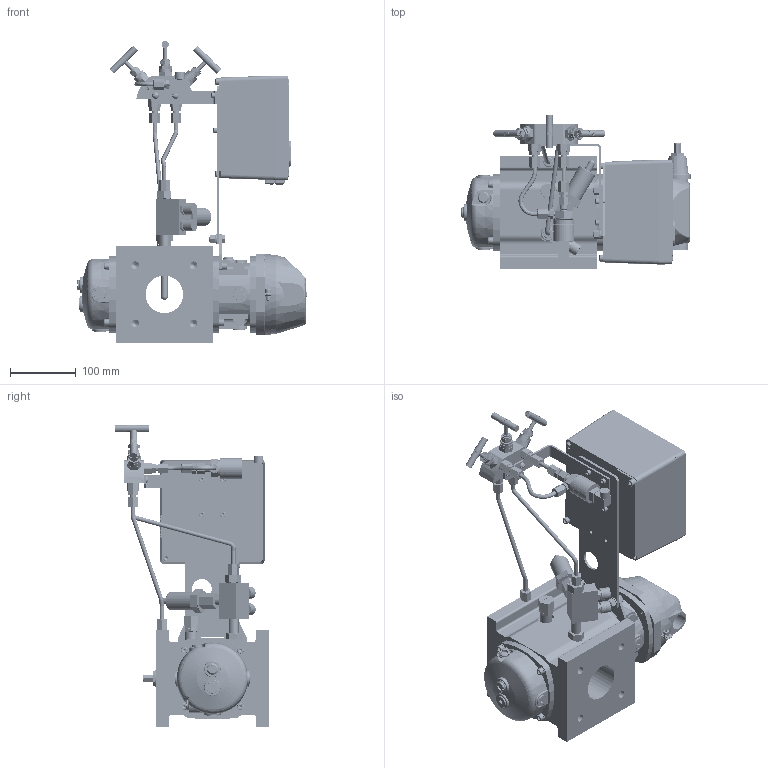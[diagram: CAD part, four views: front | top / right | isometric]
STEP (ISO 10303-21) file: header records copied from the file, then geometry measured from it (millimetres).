
FILE_DESCRIPTION(('STEP AP203'), '1');
FILE_NAME('楥-2230-G25', '', ('UNSPECIFIED'), ('UNSPECIFIED'), 'C3D Converter', 'C3D Toolkit', '');
FILE_SCHEMA(('CONFIG_CONTROL_DESIGN'));
Length unit declared in the file: millimetre
Bounding box: 348 x 232.75 x 458.75 mm (x, y, z)
Volume: 5012689.9 mm3; surface area: 727201.5 mm2
Topology: 5 solids, 8 shells, 10313 faces, 28834 edges, 19345 vertices
Faces by surface type: plane 5236, extrusion 2990, cylinder 1599, cone 270, torus 131, bspline 75, sphere 12
Full cylindrical faces by diameter (mm): 1 x23, 1.5 x1, 2 x11, 2.2 x1, 2.5 x4, 2.791 x1, 3 x17, 3.3 x4, 3.5 x4, 4 x33, 4.134 x4, 4.4 x1, 4.5 x8, 5 x5, 5.4 x1, 5.5 x5, 6 x18, 6.2 x5, 6.381 x1, 6.5 x11, 7 x16, 7.4 x4, 7.5 x7, 8 x5, 8.466 x1, 8.5 x9, 8.77 x4, 9.4 x9, 9.526 x2, 9.65 x1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
Entity records: 473651 total; most frequent: CARTESIAN_POINT 141528, ORIENTED_EDGE 55062, DIRECTION 41357, EDGE_CURVE 28131, VERTEX_POINT 19281, VECTOR 19167, LINE 16177, EDGE_LOOP 11933
